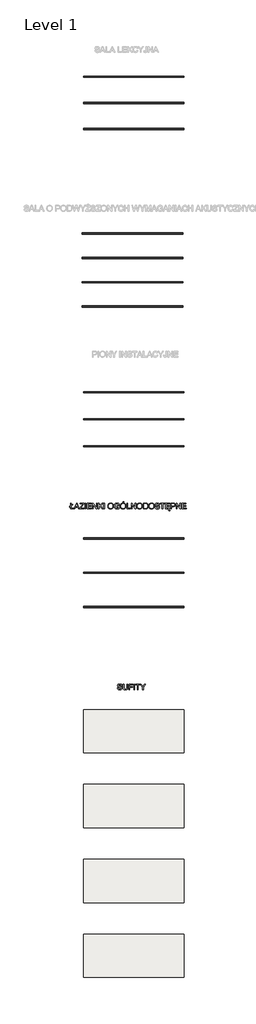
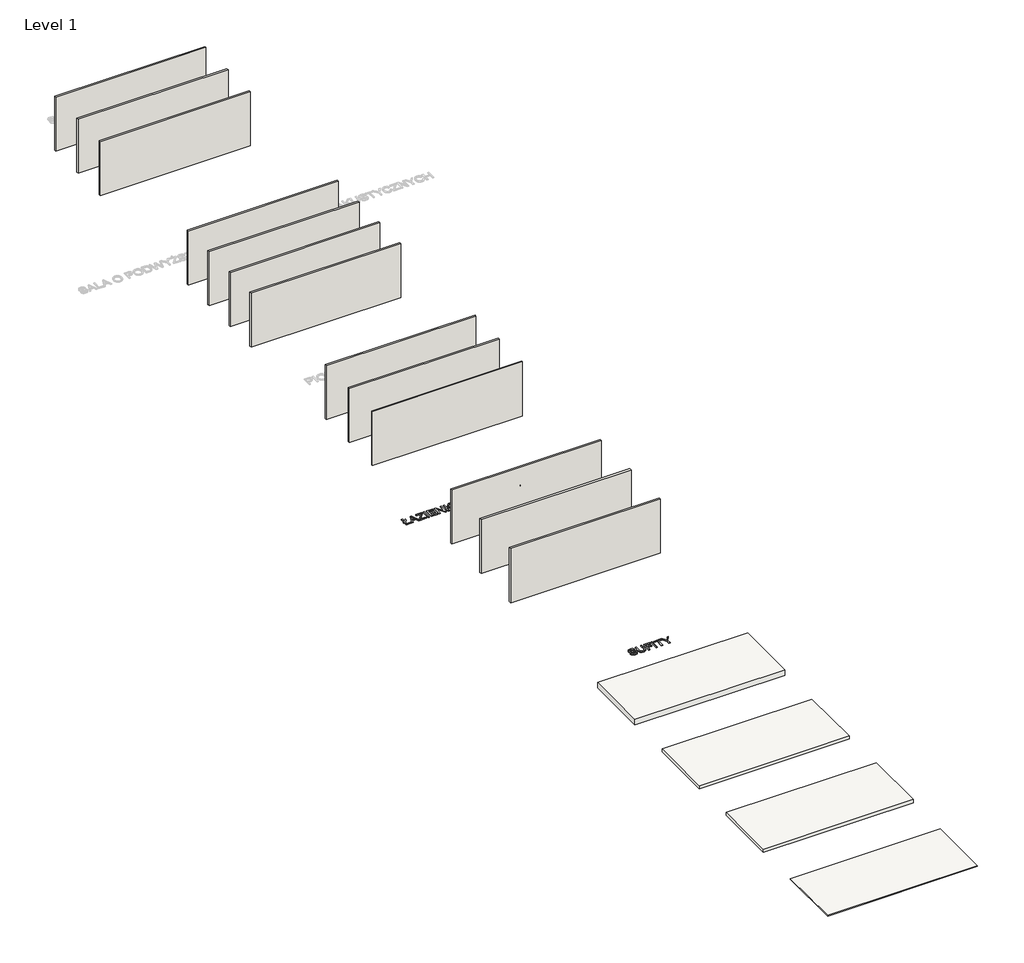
# One storey, part 1 of 4: 13 walls, 4 coverings, 2 proxies.
"""IFC4 building model written with IfcOpenShell, lengths in millimetres."""

from ifc_helpers import new_model, si_unit, frame, origin, origin_with_axes, place, context, project, spatial, polyline, outline, extrude, element, save

model = new_model("IFC4")

# Units and contexts
model_context = context("Model", 3, world=origin())
ifc_project = project(units=[si_unit("LENGTHUNIT", "METRE", prefix="MILLI")], contexts=[model_context])

# Site, building, storey
site = spatial("IfcSite", under=ifc_project)
building = spatial("IfcBuilding", under=site)
storey = spatial("IfcBuildingStorey", under=building, Name="Level 1", Elevation=0.0)

# Proxies
placement = place(None, origin())
element("IfcBuildingElementProxy", 1, Name="600mm Arial", ObjectType="600mm Arial", at=placement, inside=storey, context=model_context, shape_type="SweptSolid", body=[
    extrude(outline(polyline([(-4274.9817522, -32312.9350423), (-4340.9062058, -32367.823036), (-4340.9062058, -32292.4808033), (-4274.9817522, -32237.5928097), (-4274.9817522, -31948.7318671), (-4199.6395196, -31948.7318671), (-4199.6395196, -32174.7585649), (-4058.3728335, -32057.0363264), (-4058.3728335, -32132.378559), (-4199.6395196, -32250.1007975), (-4199.6395196, -32476.1274953), (-3898.2705892, -32476.1274953), (-3898.2705892, -32551.469728), (-4274.9817522, -32551.469728), (-4274.9817522, -32312.9350423)])), origin_with_axes(), (0.0, 0.0, 1.0), 50.0),
    extrude(outline(polyline([(-3893.1202413, -32551.469728), (-3652.5254164, -31948.7318671), (-3588.3667964, -31948.7318671), (-3347.7719716, -32551.469728), (-3427.3816354, -32551.469728), (-3496.3962977, -32363.1141464), (-3744.643068, -32363.1141464), (-3813.5105775, -32551.469728), (-3893.1202413, -32551.469728)]), holes=[polyline([(-3716.978342, -32287.7719138), (-3523.9138709, -32287.7719138), (-3578.2132534, -32139.5890462), (-3620.4461064, -32024.0740997), (-3657.9700699, -32126.6395999), (-3716.978342, -32287.7719138)])]), origin_with_axes(), (0.0, 0.0, 1.0), 50.0),
    extrude(outline(polyline([(-3314.3682864, -32551.469728), (-3314.3682864, -32473.3315922), (-3006.0831745, -32095.8846651), (-2947.5163608, -32024.0740997), (-3276.6971701, -32024.0740997), (-3276.6971701, -31948.7318671), (-2852.8971117, -31948.7318671), (-2852.8971117, -32024.0740997), (-3190.3184777, -32437.1320039), (-3222.103482, -32476.1274953), (-2843.4793326, -32476.1274953), (-2843.4793326, -32551.469728), (-3314.3682864, -32551.469728)])), origin_with_axes(), (0.0, 0.0, 1.0), 50.0),
    extrude(outline(polyline([(-2749.3015418, -32551.469728), (-2749.3015418, -31948.7318671), (-2673.9593092, -31948.7318671), (-2673.9593092, -32551.469728), (-2749.3015418, -32551.469728)])), origin_with_axes(), (0.0, 0.0, 1.0), 50.0),
    extrude(outline(polyline([(-2523.274844, -32551.469728), (-2523.274844, -31948.7318671), (-2090.0570065, -31948.7318671), (-2090.0570065, -32024.0740997), (-2447.9326114, -32024.0740997), (-2447.9326114, -32203.0119021), (-2108.8925646, -32203.0119021), (-2108.8925646, -32278.3541347), (-2447.9326114, -32278.3541347), (-2447.9326114, -32476.1274953), (-2080.6392274, -32476.1274953), (-2080.6392274, -32551.469728), (-2523.274844, -32551.469728)])), origin_with_axes(), (0.0, 0.0, 1.0), 50.0),
    extrude(outline(polyline([(-1967.6258785, -32551.469728), (-1967.6258785, -31948.7318671), (-1886.9861452, -31948.7318671), (-1572.0791573, -32426.2426968), (-1572.0791573, -31948.7318671), (-1496.7369247, -31948.7318671), (-1496.7369247, -32551.469728), (-1577.376658, -32551.469728), (-1892.2836459, -32073.8117454), (-1892.2836459, -32551.469728), (-1967.6258785, -32551.469728)])), origin_with_axes(), (0.0, 0.0, 1.0), 50.0),
    extrude(outline(polyline([(-1364.8880176, -32551.469728), (-1364.8880176, -31948.7318671), (-1289.545785, -31948.7318671), (-1289.545785, -32243.7732272), (-980.524909, -31948.7318671), (-875.1635056, -31948.7318671), (-1134.5938886, -32196.537179), (-865.7457265, -32551.469728), (-957.8633781, -32551.469728), (-1188.0103543, -32247.4520471), (-1289.545785, -32344.2785883), (-1289.545785, -32551.469728), (-1364.8880176, -32551.469728)])), origin_with_axes(), (0.0, 0.0, 1.0), 50.0),
    extrude(outline(polyline([(-799.821273, -32551.469728), (-799.821273, -31948.7318671), (-724.4790404, -31948.7318671), (-724.4790404, -32551.469728), (-799.821273, -32551.469728)])), origin_with_axes(), (0.0, 0.0, 1.0), 50.0),
    extrude(outline(polyline([(-366.6034355, -32258.0470486), (-361.5818463, -32187.3493262), (-346.5170785, -32124.7634017), (-321.4091324, -32070.2892753), (-305.0889674, -32046.0941363), (-286.2580077, -32023.9269469), (-243.1698291, -31986.9088211), (-194.2507207, -31960.4673027), (-139.5006828, -31944.6023917), (-78.9197153, -31939.314088), (-38.3699223, -31941.7972914), (0.1381255, -31949.2469018), (36.6044283, -31961.6629192), (71.028986, -31979.0453435), (102.4461084, -32000.8699428), (129.8901052, -32026.6124854), (153.3609765, -32056.2729713), (172.8587222, -32089.8514004), (188.1810073, -32126.5844176), (199.1254967, -32165.7086678), (205.6921903, -32207.224151), (207.8810882, -32251.1308671), (205.5772272, -32295.6169974), (198.6656442, -32337.6935006), (187.1463392, -32377.3603767), (171.0193123, -32414.6176257), (150.6662409, -32448.4811634), (126.4688026, -32477.9669053), (98.4269976, -32503.0748515), (66.5408256, -32523.8050019), (32.0656842, -32540.0285979), (-3.7430295, -32551.6168808), (-40.8853155, -32558.5698505), (-79.3611737, -32560.887507), (-120.6191394, -32558.3261286), (-159.633025, -32550.6419935), (-196.4028304, -32537.8351015), (-230.9285557, -32519.9054528), (-262.3088899, -32497.5474245), (-289.6425221, -32471.455394), (-312.9294524, -32441.6293612), (-332.1696807, -32408.0693262), (-347.2344484, -32372.1226568), (-357.9949968, -32335.1367207), (-364.4513258, -32297.111518), (-366.6034355, -32258.0470486)]), holes=[polyline([(-291.2612029, -32258.7828126), (-287.4950109, -32308.7319905), (-276.1964352, -32353.070968), (-257.3654755, -32391.799745), (-231.0021321, -32424.9183216), (-198.9550118, -32451.4426135), (-163.0727217, -32470.3885362), (-123.3552618, -32481.7560899), (-79.802632, -32485.5452744), (-35.5050413, -32481.7193017), (4.6814681, -32470.2413834), (40.7568963, -32451.1115197), (72.7212432, -32424.3297104), (98.8914486, -32390.512158), (117.5844525, -32350.2750648), (128.8002548, -32303.6184308), (132.5388556, -32250.5422559), (130.9385689, -32216.0625159), (126.1377089, -32183.8452502), (118.1362755, -32153.8904587), (106.9342687, -32126.1981415), (92.6558488, -32101.1315821), (75.4251758, -32079.0540638), (55.2422499, -32059.9655868), (32.1070709, -32043.866151), (6.7370088, -32031.0868502), (-20.1505665, -32021.9587782), (-48.5556551, -32016.481935), (-78.4782569, -32014.6563206), (-120.5179719, -32018.1741922), (-159.5226604, -32028.7278069), (-195.4923225, -32046.3171648), (-228.4269581, -32070.9422659), (-255.9169402, -32103.7895295), (-275.5526417, -32146.0453752), (-287.3340626, -32197.7098029), (-291.2612029, -32258.7828126)])]), origin_with_axes(), (0.0, 0.0, 1.0), 50.0),
    extrude(outline(polyline([(594.0100303, -32316.025251), (594.0100303, -32240.6830184), (838.8722863, -32240.6830184), (838.8722863, -32465.9739523), (779.3673736, -32507.3606767), (717.9862627, -32537.0487537), (654.8761064, -32554.9278187), (590.1840576, -32560.887507), (546.9073394, -32558.5192667), (505.6631692, -32551.4145457), (466.451547, -32539.5733439), (429.2724729, -32522.9956615), (395.3261618, -32501.9298188), (365.8128287, -32476.624136), (340.7324737, -32447.0786133), (320.0850967, -32413.2932506), (303.9580697, -32376.3487012), (292.4387648, -32337.3256186), (285.5271818, -32296.2240026), (283.2233208, -32253.0438535), (285.5179847, -32209.8591058), (292.4019766, -32168.1550831), (303.8752963, -32127.9317854), (319.9379439, -32089.1892128), (340.3048109, -32053.6288195), (364.6907886, -32022.9520596), (393.0958772, -31997.1589332), (425.5200765, -31976.2494403), (461.2598124, -31960.0902237), (499.6115104, -31948.5479261), (540.5751705, -31941.6225475), (584.1507928, -31939.314088), (646.2124854, -31944.666771), (702.0201841, -31960.7248201), (726.9395908, -31972.4786498), (749.017109, -31986.329407), (768.2527388, -32002.2770915), (784.6464802, -32020.3217033), (811.0052252, -32064.338784), (830.1902712, -32120.017724), (760.7341505, -32139.5890462), (745.2279244, -32099.8761848), (726.3739722, -32069.9121963), (701.4315729, -32047.3242418), (667.6600058, -32029.7394824), (627.3953214, -32018.427111), (582.9735705, -32014.6563206), (530.9734504, -32018.7214166), (486.5149113, -32030.9167048), (449.7635, -32049.7154747), (420.8847634, -32073.5910162), (398.7198732, -32101.3109246), (382.1100011, -32131.6427951), (364.4516653, -32188.5173515), (358.5655534, -32249.9536447), (360.3359855, -32287.5741772), (365.6472818, -32322.0033335), (374.4994423, -32353.2411134), (386.892467, -32381.287517), (402.6654076, -32406.0367782), (421.6573156, -32427.383131), (443.868191, -32445.3265753), (469.298034, -32459.8671112), (496.7558264, -32471.1013076), (525.0505503, -32479.1257336), (554.1822058, -32483.9403892), (584.1507928, -32485.5452744), (636.3348539, -32480.7076262), (687.2313279, -32466.1946815), (731.4323496, -32446.200295), (763.5300537, -32424.9183216), (763.5300537, -32316.025251), (594.0100303, -32316.025251)])), origin_with_axes(), (0.0, 0.0, 1.0), 50.0),
    extrude(outline(polyline([(933.0500771, -32258.0470486), (938.0716663, -32187.3493262), (953.136434, -32124.7634017), (978.2443802, -32070.2892753), (994.5645452, -32046.0941363), (1013.3955048, -32023.9269469), (1056.4836835, -31986.9088211), (1105.4027918, -31960.4673027), (1160.1528297, -31944.6023917), (1220.7337973, -31939.314088), (1261.2835902, -31941.7972914), (1299.7916381, -31949.2469018), (1336.2579408, -31961.6629192), (1370.6824985, -31979.0453435), (1402.0996209, -32000.8699428), (1429.5436178, -32026.6124854), (1453.0144891, -32056.2729713), (1472.5122348, -32089.8514004), (1487.8345199, -32126.5844176), (1498.7790093, -32165.7086678), (1505.3457029, -32207.224151), (1507.5346007, -32251.1308671), (1505.2307397, -32295.6169974), (1498.3191568, -32337.6935006), (1486.7998518, -32377.3603767), (1470.6728248, -32414.6176257), (1450.3197534, -32448.4811634), (1426.1223152, -32477.9669053), (1398.0805101, -32503.0748515), (1366.1943382, -32523.8050019), (1331.7191967, -32540.0285979), (1295.910483, -32551.6168808), (1258.7681971, -32558.5698505), (1220.2923389, -32560.887507), (1179.0343731, -32558.3261286), (1140.0204876, -32550.6419935), (1103.2506821, -32537.8351015), (1068.7249569, -32519.9054528), (1037.3446227, -32497.5474245), (1010.0109905, -32471.455394), (986.7240602, -32441.6293612), (967.4838318, -32408.0693262), (952.4190641, -32372.1226568), (941.6585158, -32335.1367207), (935.2021867, -32297.111518), (933.0500771, -32258.0470486)]), holes=[polyline([(1008.3923097, -32258.7828126), (1012.1585016, -32308.7319905), (1023.4570774, -32353.070968), (1042.288037, -32391.799745), (1068.6513805, -32424.9183216), (1100.6985008, -32451.4426135), (1136.5807909, -32470.3885362), (1176.2982508, -32481.7560899), (1219.8508805, -32485.5452744), (1264.1484713, -32481.7193017), (1304.3349807, -32470.2413834), (1340.4104089, -32451.1115197), (1372.3747557, -32424.3297104), (1398.5449611, -32390.512158), (1417.237965, -32350.2750648), (1428.4537674, -32303.6184308), (1432.1923681, -32250.5422559), (1430.5920815, -32216.0625159), (1425.7912214, -32183.8452502), (1417.789788, -32153.8904587), (1406.5877813, -32126.1981415), (1392.3093613, -32101.1315821), (1375.0786884, -32079.0540638), (1354.8957624, -32059.9655868), (1331.7605834, -32043.866151), (1306.3905214, -32031.0868502), (1279.502946, -32021.9587782), (1251.0978575, -32016.481935), (1221.1752557, -32014.6563206), (1179.1355407, -32018.1741922), (1140.1308522, -32028.7278069), (1104.1611901, -32046.3171648), (1071.2265545, -32070.9422659), (1043.7365724, -32103.7895295), (1024.1008709, -32146.0453752), (1012.31945, -32197.7098029), (1008.3923097, -32258.7828126)])]), origin_with_axes(), (0.0, 0.0, 1.0), 50.0),
    extrude(outline(polyline([(1168.494554, -31911.0607507), (1225.0012284, -31798.0474018), (1319.1790192, -31798.0474018), (1225.0012284, -31911.0607507), (1168.494554, -31911.0607507)])), origin_with_axes(), (0.0, 0.0, 1.0), 50.0),
    extrude(outline(polyline([(1611.1301706, -32551.469728), (1611.1301706, -31948.7318671), (1686.4724032, -31948.7318671), (1686.4724032, -32476.1274953), (1987.8413336, -32476.1274953), (1987.8413336, -32551.469728), (1611.1301706, -32551.469728)])), origin_with_axes(), (0.0, 0.0, 1.0), 50.0),
    extrude(outline(polyline([(2072.6013453, -32551.469728), (2072.6013453, -31948.7318671), (2153.2410787, -31948.7318671), (2468.1480665, -32426.2426968), (2468.1480665, -31948.7318671), (2543.4902992, -31948.7318671), (2543.4902992, -32551.469728), (2462.8505658, -32551.469728), (2147.9435779, -32073.8117454), (2147.9435779, -32551.469728), (2072.6013453, -32551.469728)])), origin_with_axes(), (0.0, 0.0, 1.0), 50.0),
    extrude(outline(polyline([(2647.085869, -32258.0470486), (2652.1074582, -32187.3493262), (2667.1722259, -32124.7634017), (2692.2801721, -32070.2892753), (2708.6003371, -32046.0941363), (2727.4312967, -32023.9269469), (2770.5194754, -31986.9088211), (2819.4385837, -31960.4673027), (2874.1886217, -31944.6023917), (2934.7695892, -31939.314088), (2975.3193821, -31941.7972914), (3013.82743, -31949.2469018), (3050.2937328, -31961.6629192), (3084.7182905, -31979.0453435), (3116.1354129, -32000.8699428), (3143.5794097, -32026.6124854), (3167.050281, -32056.2729713), (3186.5480267, -32089.8514004), (3201.8703118, -32126.5844176), (3212.8148012, -32165.7086678), (3219.3814948, -32207.224151), (3221.5703927, -32251.1308671), (3219.2665317, -32295.6169974), (3212.3549487, -32337.6935006), (3200.8356437, -32377.3603767), (3184.7086168, -32414.6176257), (3164.3555454, -32448.4811634), (3140.1581071, -32477.9669053), (3112.1163021, -32503.0748515), (3080.2301301, -32523.8050019), (3045.7549886, -32540.0285979), (3009.9462749, -32551.6168808), (2972.803989, -32558.5698505), (2934.3281308, -32560.887507), (2893.0701651, -32558.3261286), (2854.0562795, -32550.6419935), (2817.2864741, -32537.8351015), (2782.7607488, -32519.9054528), (2751.3804146, -32497.5474245), (2724.0467824, -32471.455394), (2700.7598521, -32441.6293612), (2681.5196238, -32408.0693262), (2666.454856, -32372.1226568), (2655.6943077, -32335.1367207), (2649.2379787, -32297.111518), (2647.085869, -32258.0470486)]), holes=[polyline([(2722.4281016, -32258.7828126), (2726.1942935, -32308.7319905), (2737.4928693, -32353.070968), (2756.3238289, -32391.799745), (2782.6871724, -32424.9183216), (2814.7342927, -32451.4426135), (2850.6165828, -32470.3885362), (2890.3340427, -32481.7560899), (2933.8866724, -32485.5452744), (2978.1842632, -32481.7193017), (3018.3707726, -32470.2413834), (3054.4462008, -32451.1115197), (3086.4105476, -32424.3297104), (3112.5807531, -32390.512158), (3131.273757, -32350.2750648), (3142.4895593, -32303.6184308), (3146.2281601, -32250.5422559), (3144.6278734, -32216.0625159), (3139.8270133, -32183.8452502), (3131.8255799, -32153.8904587), (3120.6235732, -32126.1981415), (3106.3451533, -32101.1315821), (3089.1144803, -32079.0540638), (3068.9315543, -32059.9655868), (3045.7963754, -32043.866151), (3020.4263133, -32031.0868502), (2993.538738, -32021.9587782), (2965.1336494, -32016.481935), (2935.2110476, -32014.6563206), (2893.1713326, -32018.1741922), (2854.1666441, -32028.7278069), (2818.196982, -32046.3171648), (2785.2623464, -32070.9422659), (2757.7723643, -32103.7895295), (2738.1366628, -32146.0453752), (2726.3552419, -32197.7098029), (2722.4281016, -32258.7828126)])]), origin_with_axes(), (0.0, 0.0, 1.0), 50.0),
    extrude(outline(polyline([(3325.1659625, -32551.469728), (3325.1659625, -31948.7318671), (3533.0928662, -31948.7318671), (3595.2281352, -31950.9023708), (3640.6615616, -31957.4138821), (3688.7069501, -31974.1525129), (3729.247546, -32000.529652), (3751.5871802, -32022.0875369), (3770.9285761, -32046.441325), (3787.2717337, -32073.5910162), (3800.6166531, -32103.5366106), (3810.9817283, -32136.0021967), (3818.3853534, -32170.7118629), (3824.3082536, -32246.8634359), (3820.2983398, -32311.5554848), (3808.2685986, -32368.4852236), (3789.9480752, -32416.9536764), (3767.0658151, -32456.2618676), (3740.7254643, -32487.2927139), (3712.0306686, -32510.9291321), (3679.086836, -32528.4587092), (3639.999374, -32541.1690321), (3594.6947063, -32548.894554), (3543.0992565, -32551.469728), (3325.1659625, -32551.469728)]), holes=[polyline([(3400.5081951, -32476.1274953), (3533.8286302, -32476.1274953), (3588.9741413, -32473.4051686), (3630.8023241, -32465.2381883), (3662.3665993, -32452.1048011), (3686.7203874, -32434.4832535), (3712.8951913, -32401.8705146), (3732.558484, -32359.6560557), (3744.8641367, -32307.6559356), (3748.966021, -32245.6862136), (3746.9564656, -32201.9450443), (3740.9277994, -32163.5749522), (3730.8800224, -32130.5759373), (3716.8131346, -32102.9479994), (3699.8675702, -32080.0657393), (3681.1837633, -32061.3037576), (3660.7617141, -32046.6620542), (3638.6014224, -32036.1406291), (3595.2649234, -32027.090732), (3531.768491, -32024.0740997), (3400.5081951, -32024.0740997), (3400.5081951, -32476.1274953)])]), origin_with_axes(), (0.0, 0.0, 1.0), 50.0),
    extrude(outline(polyline([(3899.6504862, -32258.0470486), (3904.6720754, -32187.3493262), (3919.7368431, -32124.7634017), (3944.8447893, -32070.2892753), (3961.1649543, -32046.0941363), (3979.9959139, -32023.9269469), (4023.0840926, -31986.9088211), (4072.0032009, -31960.4673027), (4126.7532389, -31944.6023917), (4187.3342064, -31939.314088), (4227.8839993, -31941.7972914), (4266.3920472, -31949.2469018), (4302.8583499, -31961.6629192), (4337.2829076, -31979.0453435), (4368.70003, -32000.8699428), (4396.1440269, -32026.6124854), (4419.6148982, -32056.2729713), (4439.1126439, -32089.8514004), (4454.434929, -32126.5844176), (4465.3794184, -32165.7086678), (4471.946112, -32207.224151), (4474.1350098, -32251.1308671), (4471.8311489, -32295.6169974), (4464.9195659, -32337.6935006), (4453.4002609, -32377.3603767), (4437.2732339, -32414.6176257), (4416.9201625, -32448.4811634), (4392.7227243, -32477.9669053), (4364.6809192, -32503.0748515), (4332.7947473, -32523.8050019), (4298.3196058, -32540.0285979), (4262.5108921, -32551.6168808), (4225.3686062, -32558.5698505), (4186.892748, -32560.887507), (4145.6347823, -32558.3261286), (4106.6208967, -32550.6419935), (4069.8510912, -32537.8351015), (4035.325366, -32519.9054528), (4003.9450318, -32497.5474245), (3976.6113996, -32471.455394), (3953.3244693, -32441.6293612), (3934.0842409, -32408.0693262), (3919.0194732, -32372.1226568), (3908.2589249, -32335.1367207), (3901.8025959, -32297.111518), (3899.6504862, -32258.0470486)]), holes=[polyline([(3974.9927188, -32258.7828126), (3978.7589107, -32308.7319905), (3990.0574865, -32353.070968), (4008.8884461, -32391.799745), (4035.2517896, -32424.9183216), (4067.2989099, -32451.4426135), (4103.1812, -32470.3885362), (4142.8986599, -32481.7560899), (4186.4512896, -32485.5452744), (4230.7488804, -32481.7193017), (4270.9353898, -32470.2413834), (4307.010818, -32451.1115197), (4338.9751648, -32424.3297104), (4365.1453703, -32390.512158), (4383.8383741, -32350.2750648), (4395.0541765, -32303.6184308), (4398.7927772, -32250.5422559), (4397.1924906, -32216.0625159), (4392.3916305, -32183.8452502), (4384.3901971, -32153.8904587), (4373.1881904, -32126.1981415), (4358.9097704, -32101.1315821), (4341.6790975, -32079.0540638), (4321.4961715, -32059.9655868), (4298.3609926, -32043.866151), (4272.9909305, -32031.0868502), (4246.1033551, -32021.9587782), (4217.6982666, -32016.481935), (4187.7756648, -32014.6563206), (4145.7359498, -32018.1741922), (4106.7312613, -32028.7278069), (4070.7615992, -32046.3171648), (4037.8269636, -32070.9422659), (4010.3369815, -32103.7895295), (3990.70128, -32146.0453752), (3978.9198591, -32197.7098029), (3974.9927188, -32258.7828126)])]), origin_with_axes(), (0.0, 0.0, 1.0), 50.0),
    extrude(outline(polyline([(4549.4772425, -32344.2785883), (4624.8194751, -32344.2785883), (4633.464702, -32386.088377), (4649.0996868, -32419.6943973), (4673.490263, -32446.3658419), (4708.4022644, -32467.3719039), (4751.0765758, -32481.0019318), (4798.7540824, -32485.5452744), (4840.729418, -32482.1055778), (4877.4808294, -32471.7864878), (4907.2608769, -32455.4525272), (4928.3221211, -32433.9682187), (4940.848503, -32409.3017309), (4945.0239637, -32383.4212326), (4941.8969667, -32358.2029218), (4932.5159758, -32336.4059136), (4913.4596885, -32317.8094787), (4881.3068021, -32302.192888), (4771.6043911, -32273.424516), (4699.5914906, -32254.3866227), (4653.5142707, -32236.2684345), (4616.0087013, -32210.921365), (4589.4292271, -32180.2032184), (4573.5919072, -32144.7761823), (4568.3128006, -32105.3024442), (4569.945277, -32082.866241), (4574.842706, -32061.1749989), (4583.0050878, -32040.2287178), (4594.4324223, -32020.0273977), (4608.9959508, -32001.3941747), (4626.5669145, -31985.1521846), (4647.1453137, -31971.3014275), (4670.7311481, -31959.8419033), (4723.7429436, -31944.4460418), (4782.4201218, -31939.314088), (4845.9901306, -31944.6851651), (4901.6138882, -31960.7983965), (4925.9492822, -31972.8005466), (4947.304832, -31987.3226883), (4965.6805377, -32004.3648218), (4981.0763992, -32023.9269469), (4993.3728549, -32045.4388465), (5002.4503431, -32068.3303037), (5008.3088639, -32092.6013183), (5010.9484172, -32118.2518904), (4935.6061846, -32118.2518904), (4930.5662013, -32094.210802), (4921.7738216, -32073.2967106), (4909.2290455, -32055.5096162), (4892.9318732, -32040.8495186), (4872.5788018, -32029.3899945), (4847.8663287, -32021.2046201), (4818.7944541, -32016.2933955), (4785.3631778, -32014.6563206), (4750.8650437, -32016.2750014), (4721.3884988, -32021.1310437), (4696.9335432, -32029.2244476), (4677.5001768, -32040.5552131), (4662.6929265, -32054.1760439), (4652.1163191, -32069.1396441), (4645.7703547, -32085.4460135), (4643.6550332, -32103.0951522), (4645.1541524, -32118.2794816), (4649.6515097, -32132.0474653), (4657.1471054, -32144.3991032), (4667.6409393, -32155.3343955), (4684.1588409, -32165.6902737), (4710.168098, -32176.1565165), (4790.6606785, -32197.4200958), (4873.728433, -32217.6168173), (4923.9811135, -32235.2383649), (4966.9313365, -32262.5719971), (4983.53661, -32278.6392433), (4996.895325, -32296.3067761), (5007.1638312, -32315.4826251), (5014.4984785, -32336.0748198), (5020.3661963, -32381.5082462), (5018.6785376, -32405.0756865), (5013.6155617, -32427.9533481), (5005.1772684, -32450.1412309), (4993.3636578, -32471.639335), (4978.3816636, -32491.6153273), (4960.4382193, -32509.2368749), (4939.5333249, -32524.5039777), (4915.6669805, -32537.4166357), (4889.5335632, -32547.6851419), (4861.8274505, -32555.0197892), (4801.6971384, -32560.887507), (4763.1569008, -32559.3056144), (4727.881616, -32554.5599367), (4695.8712839, -32546.6504738), (4667.1259045, -32535.5772258), (4641.4707339, -32521.3217984), (4618.7310281, -32503.8657978), (4598.906787, -32483.2092237), (4581.9980108, -32459.3520764), (4568.37718, -32433.0669078), (4558.4167749, -32405.1262703), (4552.1167958, -32375.5301638), (4549.4772425, -32344.2785883)])), origin_with_axes(), (0.0, 0.0, 1.0), 50.0),
    extrude(outline(polyline([(5284.0640104, -32551.469728), (5284.0640104, -32024.0740997), (5086.2906498, -32024.0740997), (5086.2906498, -31948.7318671), (5557.1796036, -31948.7318671), (5557.1796036, -32024.0740997), (5359.406243, -32024.0740997), (5359.406243, -32551.469728), (5284.0640104, -32551.469728)])), origin_with_axes(), (0.0, 0.0, 1.0), 50.0),
    extrude(outline(polyline([(5641.9396153, -31948.7318671), (6075.1574529, -31948.7318671), (6075.1574529, -32024.0740997), (5717.2818479, -32024.0740997), (5717.2818479, -32203.0119021), (6056.3218947, -32203.0119021), (6056.3218947, -32278.3541347), (5717.2818479, -32278.3541347), (5717.2818479, -32476.1274953), (6084.5752319, -32476.1274953), (6084.5752319, -32551.469728), (6058.3820339, -32551.469728), (6037.6150952, -32567.9324472), (6022.1088692, -32587.8900455), (6012.4519668, -32609.7238419), (6009.2329993, -32631.8151557), (6011.5322618, -32648.1123281), (6018.4300492, -32661.6871737), (6030.4781845, -32670.8474354), (6048.2284908, -32673.9008559), (6067.064049, -32671.2521056), (6084.5752319, -32664.1887713), (6084.5752319, -32716.133709), (6057.1680233, -32726.8390751), (6031.7473774, -32730.4075304), (6013.1509426, -32728.8992142), (5997.0928935, -32724.3742657), (5983.5180479, -32717.2005668), (5972.3712234, -32707.7459995), (5957.5823672, -32683.3922114), (5952.7263249, -32653.8880754), (5956.4051448, -32627.1982367), (5967.4416047, -32600.3980333), (5985.210305, -32574.7382641), (6009.0858465, -32551.469728), (5641.9396153, -32551.469728), (5641.9396153, -31948.7318671)])), origin_with_axes(), (0.0, 0.0, 1.0), 50.0),
    extrude(outline(polyline([(6197.5885809, -32551.469728), (6197.5885809, -31948.7318671), (6420.9665283, -31948.7318671), (6472.9850424, -31950.1666068), (6511.0240407, -31954.4708262), (6551.1783605, -31965.1945863), (6584.2325578, -31982.650587), (6610.8488201, -32007.6297745), (6631.6893352, -32040.923095), (6645.1538162, -32080.194498), (6649.6419765, -32123.1079328), (6646.6115486, -32160.1076644), (6637.5202648, -32194.145946), (6622.3681251, -32225.2227776), (6601.1551296, -32253.3381591), (6572.0326711, -32276.6434835), (6533.1521428, -32293.2901437), (6484.5135445, -32303.2781399), (6426.1168763, -32306.607472), (6272.9308135, -32306.607472), (6272.9308135, -32551.469728), (6197.5885809, -32551.469728)]), holes=[polyline([(6272.9308135, -32231.2652394), (6430.5314602, -32231.2652394), (6466.7678367, -32229.536194), (6497.3388305, -32224.3490578), (6522.2444416, -32215.703831), (6541.4846699, -32203.6005133), (6555.8412648, -32188.3610017), (6566.0959754, -32170.3071927), (6572.2488018, -32149.4390866), (6574.2997439, -32125.7566831), (6569.4620957, -32091.9115396), (6554.949151, -32063.3638968), (6532.5635316, -32041.8795882), (6504.1078592, -32029.2244476), (6475.0451816, -32025.3616867), (6428.7656266, -32024.0740997), (6272.9308135, -32024.0740997), (6272.9308135, -32231.2652394)])]), origin_with_axes(), (0.0, 0.0, 1.0), 50.0),
    extrude(outline(polyline([(6753.2375464, -32551.469728), (6753.2375464, -31948.7318671), (6833.8772797, -31948.7318671), (7148.7842676, -32426.2426968), (7148.7842676, -31948.7318671), (7224.1265002, -31948.7318671), (7224.1265002, -32551.469728), (7143.4867669, -32551.469728), (6828.579779, -32073.8117454), (6828.579779, -32551.469728), (6753.2375464, -32551.469728)])), origin_with_axes(), (0.0, 0.0, 1.0), 50.0),
    extrude(outline(polyline([(7355.9754073, -32551.469728), (7355.9754073, -31948.7318671), (7789.1932448, -31948.7318671), (7789.1932448, -32024.0740997), (7431.3176399, -32024.0740997), (7431.3176399, -32203.0119021), (7770.3576866, -32203.0119021), (7770.3576866, -32278.3541347), (7431.3176399, -32278.3541347), (7431.3176399, -32476.1274953), (7798.6110239, -32476.1274953), (7798.6110239, -32551.469728), (7355.9754073, -32551.469728)])), origin_with_axes(), (0.0, 0.0, 1.0), 50.0),
])
element("IfcBuildingElementProxy", 2, Name="600mm Arial", ObjectType="600mm Arial", at=placement, inside=storey, context=model_context, shape_type="SweptSolid", body=[
    extrude(outline(polyline([(635.9623504, -51169.5146622), (711.304583, -51169.5146622), (719.9498099, -51211.324451), (735.5847946, -51244.9304712), (759.9753709, -51271.6019159), (794.8873723, -51292.6079778), (837.5616837, -51306.2380057), (885.2391903, -51310.7813484), (927.2145259, -51307.3416517), (963.9659373, -51297.0225617), (993.7459848, -51280.6886012), (1014.807229, -51259.2042926), (1027.3336109, -51234.5378049), (1031.5090716, -51208.6573065), (1028.3820746, -51183.4389957), (1019.0010837, -51161.6419875), (999.9447964, -51143.0455527), (967.79191, -51127.428962), (858.089499, -51098.6605899), (786.0765985, -51079.6226967), (739.9993786, -51061.5045084), (702.4938092, -51036.157439), (675.914335, -51005.4392924), (660.0770151, -50970.0122562), (654.7979085, -50930.5385182), (656.4303849, -50908.102315), (661.3278139, -50886.4110728), (669.4901957, -50865.4647917), (680.9175302, -50845.2634717), (695.4810587, -50826.6302486), (713.0520224, -50810.3882585), (733.6304216, -50796.5375014), (757.216256, -50785.0779773), (810.2280515, -50769.6821158), (868.9052297, -50764.5501619), (932.4752385, -50769.9212391), (988.0989961, -50786.0344704), (1012.4343901, -50798.0366205), (1033.7899399, -50812.5587623), (1052.1656456, -50829.6008957), (1067.5615071, -50849.1630208), (1079.8579628, -50870.6749205), (1088.935451, -50893.5663776), (1094.7939718, -50917.8373923), (1097.4335251, -50943.4879644), (1022.0912925, -50943.4879644), (1017.0513092, -50919.446876), (1008.2589295, -50898.5327846), (995.7141534, -50880.7456901), (979.4169811, -50866.0855926), (959.0639097, -50854.6260684), (934.3514366, -50846.4406941), (905.279562, -50841.5294694), (871.8482857, -50839.8923945), (837.3501516, -50841.5110753), (807.8736067, -50846.3671177), (783.4186511, -50854.4605216), (763.9852847, -50865.791287), (749.1780344, -50879.4121179), (738.601427, -50894.375718), (732.2554626, -50910.6820875), (730.1401411, -50928.3312262), (731.6392603, -50943.5155555), (736.1366176, -50957.2835392), (743.6322133, -50969.6351772), (754.1260472, -50980.5704695), (770.6439488, -50990.9263477), (796.6532058, -51001.3925904), (877.1457864, -51022.6561697), (960.2135409, -51042.8528913), (1010.4662214, -51060.4744388), (1053.4164444, -51087.8080711), (1070.0217179, -51103.8753172), (1083.3804329, -51121.54285), (1093.6489391, -51140.718699), (1100.9835864, -51161.3108937), (1106.8513042, -51206.7443201), (1105.1636455, -51230.3117604), (1100.1006696, -51253.189422), (1091.6623763, -51275.3773049), (1079.8487657, -51296.875409), (1064.8667715, -51316.8514013), (1046.9233272, -51334.4729489), (1026.0184328, -51349.7400517), (1002.1520884, -51362.6527097), (976.0186711, -51372.9212159), (948.3125584, -51380.2558632), (888.1822462, -51386.123581), (849.6420087, -51384.5416884), (814.3667239, -51379.7960107), (782.3563918, -51371.8865478), (753.6110124, -51360.8132997), (727.9558418, -51346.5578724), (705.2161359, -51329.1018717), (685.3918949, -51308.4452977), (668.4831187, -51284.5881503), (654.8622879, -51258.3029818), (644.9018828, -51230.3623442), (638.6019037, -51200.7662377), (635.9623504, -51169.5146622)])), origin_with_axes(), (0.0, 0.0, 1.0), 50.0),
    extrude(outline(polyline([(1615.4113743, -50773.967941), (1690.7536069, -50773.967941), (1690.7536069, -51121.6900028), (1685.6400472, -51203.1206825), (1679.2480975, -51236.8140747), (1670.299368, -51265.8261686), (1658.0213064, -51291.2560115), (1641.6413606, -51314.2026509), (1621.1595305, -51334.6660869), (1596.5758162, -51352.6463194), (1567.8626264, -51367.2926214), (1534.9923702, -51377.7542656), (1497.9650474, -51384.0312521), (1456.780658, -51386.123581), (1416.6125426, -51384.3025651), (1380.2795971, -51378.8395175), (1347.7818213, -51369.7344381), (1319.1192154, -51356.987327), (1294.2871807, -51340.7867236), (1273.2811188, -51321.3211675), (1256.1010296, -51298.5906588), (1242.7469132, -51272.5951973), (1232.7359244, -51242.4426692), (1225.5852181, -51207.2409608), (1221.2947944, -51166.990072), (1219.8646531, -51121.6900028), (1219.8646531, -50773.967941), (1295.2068857, -50773.967941), (1295.2068857, -51119.0412525), (1298.9224939, -51186.7499337), (1310.0693183, -51233.8940114), (1318.8341069, -51251.2718371), (1330.2660399, -51266.5435384), (1344.3651173, -51279.7091154), (1361.1313392, -51290.7685678), (1401.3776295, -51305.7781532), (1449.7173237, -51310.7813484), (1491.2420039, -51308.307342), (1526.3471433, -51300.8853227), (1555.0327419, -51288.5152906), (1577.2987996, -51271.1972457), (1593.973051, -51246.8434576), (1605.8832306, -51213.366196), (1613.0293384, -51170.765461), (1615.4113743, -51119.0412525), (1615.4113743, -50773.967941)])), origin_with_axes(), (0.0, 0.0, 1.0), 50.0),
    extrude(outline(polyline([(1822.602514, -51376.7058019), (1822.602514, -50773.967941), (2227.5670143, -50773.967941), (2227.5670143, -50849.3101736), (1897.9447466, -50849.3101736), (1897.9447466, -51028.2479761), (2180.4781189, -51028.2479761), (2180.4781189, -51103.5902087), (1897.9447466, -51103.5902087), (1897.9447466, -51376.7058019), (1822.602514, -51376.7058019)])), origin_with_axes(), (0.0, 0.0, 1.0), 50.0),
    extrude(outline(polyline([(2340.5803632, -51376.7058019), (2340.5803632, -50773.967941), (2415.9225958, -50773.967941), (2415.9225958, -51376.7058019), (2340.5803632, -51376.7058019)])), origin_with_axes(), (0.0, 0.0, 1.0), 50.0),
    extrude(outline(polyline([(2717.2915263, -51376.7058019), (2717.2915263, -50849.3101736), (2519.5181657, -50849.3101736), (2519.5181657, -50773.967941), (2990.4071195, -50773.967941), (2990.4071195, -50849.3101736), (2792.6337589, -50849.3101736), (2792.6337589, -51376.7058019), (2717.2915263, -51376.7058019)])), origin_with_axes(), (0.0, 0.0, 1.0), 50.0),
    extrude(outline(polyline([(3244.6871546, -51376.7058019), (3244.6871546, -51121.3956973), (3009.2426776, -50773.967941), (3098.1229677, -50773.967941), (3223.7914572, -50959.5276194), (3288.09723, -51054.1468685), (3352.5501555, -50952.7585907), (3466.593574, -50773.967941), (3555.4738641, -50773.967941), (3320.0293872, -51121.3956973), (3320.0293872, -51376.7058019), (3244.6871546, -51376.7058019)])), origin_with_axes(), (0.0, 0.0, 1.0), 50.0),
])

# Coverings
element("IfcCovering", 3, ObjectType="Nida Sufit DK/WO/CD60-12,5/SonicC12n0", at=placement, inside=storey, context=model_context, shape_type="SweptSolid", body=[
    extrude(outline(polyline([(7576.3229419, -53424.652939), (7576.3229419, -57924.652939), (-2923.6770581, -57924.652939), (-2923.6770581, -53424.652939), (7576.3229419, -53424.652939)])), frame((0.0, 0.0, 100.0), z_axis=(0.0, 0.0, 1.0), x_axis=(1.0, 0.0, 0.0)), (0.0, 0.0, 1.0), 400.0),
])
element("IfcCovering", 4, ObjectType="Nida Sufit DK/WO/CD60-12,5/Expert", at=placement, inside=storey, context=model_context, shape_type="SweptSolid", body=[
    extrude(outline(polyline([(7576.3229419, -61212.6557571), (7576.3229419, -65712.6557571), (-2923.6770581, -65712.6557571), (-2923.6770581, -61212.6557571), (7576.3229419, -61212.6557571)])), frame((0.0, 0.0, 100.0), z_axis=(0.0, 0.0, 1.0), x_axis=(1.0, 0.0, 0.0)), (0.0, 0.0, 1.0), 222.5),
])
element("IfcCovering", 5, ObjectType="Nida Sufit DK/WO/CD60-25/Expert", at=placement, inside=storey, context=model_context, shape_type="SweptSolid", body=[
    extrude(outline(polyline([(7576.3229419, -69000.6585751), (7576.3229419, -73500.6585751), (-2923.6770581, -73500.6585751), (-2923.6770581, -69000.6585751), (7576.3229419, -69000.6585751)])), frame((0.0, 0.0, 100.0), z_axis=(0.0, 0.0, 1.0), x_axis=(1.0, 0.0, 0.0)), (0.0, 0.0, 1.0), 235.0),
])
element("IfcCovering", 6, ObjectType="NIDA Sufit C50/U50/500-25/Expert", at=placement, inside=storey, context=model_context, shape_type="SweptSolid", body=[
    extrude(outline(polyline([(7576.3229419, -76788.6613932), (7576.3229419, -81288.6613932), (-2923.6770581, -81288.6613932), (-2923.6770581, -76788.6613932), (7576.3229419, -76788.6613932)])), frame((0.0, 0.0, 100.0), z_axis=(0.0, 0.0, 1.0), x_axis=(1.0, 0.0, 0.0)), (0.0, 0.0, 1.0), 50.0),
])

# Walls
element("IfcWall", 7, ObjectType="Nida Ściana 125A75/Expert+Cicha", at=placement, inside=storey, context=model_context, shape_type="SweptSolid", body=[
    extrude(outline(polyline([(7458.3795734, -3953.5030328), (-3041.6204266, -3953.5030328), (-3041.6204266, -3828.5030328), (7458.3795734, -3828.5030328), (7458.3795734, -3953.5030328)])), origin_with_axes(), (0.0, 0.0, 1.0), 4000.0),
])
element("IfcWall", 8, ObjectType="Nida Ściana 155BB50/Expert", at=placement, inside=storey, context=model_context, shape_type="SweptSolid", body=[
    extrude(outline(polyline([(7458.3795734, -6502.6696995), (-3041.6204266, -6502.6696995), (-3041.6204266, -6347.6696995), (7458.3795734, -6347.6696995), (7458.3795734, -6502.6696995)])), origin_with_axes(), (0.0, 0.0, 1.0), 4000.0),
])
element("IfcWall", 9, ObjectType="Nida Ściana 125A75/Cicha", at=placement, inside=storey, context=model_context, shape_type="SweptSolid", body=[
    extrude(outline(polyline([(7458.3795734, -9021.8363662), (-3041.6204266, -9021.8363662), (-3041.6204266, -8896.8363662), (7458.3795734, -8896.8363662), (7458.3795734, -9021.8363662)])), origin_with_axes(), (0.0, 0.0, 1.0), 4000.0),
])
element("IfcWall", 10, ObjectType="Nida Ściana 150A100/Expert", at=placement, inside=storey, context=model_context, shape_type="SweptSolid", body=[
    extrude(outline(polyline([(7458.3795734, -11568.5030328), (-3041.6204266, -11568.5030328), (-3041.6204266, -11418.5030328), (7458.3795734, -11418.5030328), (7458.3795734, -11568.5030328)])), origin_with_axes(), (0.0, 0.0, 1.0), 4000.0),
])
element("IfcWall", 11, ObjectType="Nida Szacht 95A50/Ogień+", at=placement, inside=storey, context=model_context, shape_type="SweptSolid", body=[
    extrude(outline(polyline([(7576.3229419, -20464.3483639), (-2923.6770581, -20464.3483639), (-2923.6770581, -20369.3483639), (7576.3229419, -20369.3483639), (7576.3229419, -20464.3483639)])), origin_with_axes(), (0.0, 0.0, 1.0), 4000.0),
])
element("IfcWall", 12, ObjectType="Nida Szacht 130UU100/Hydro", at=placement, inside=storey, context=model_context, shape_type="SweptSolid", body=[
    extrude(outline(polyline([(7576.3229419, -23287.9721935), (-2923.6770581, -23287.9721935), (-2923.6770581, -23157.9721935), (7576.3229419, -23157.9721935), (7576.3229419, -23287.9721935)])), origin_with_axes(), (0.0, 0.0, 1.0), 4000.0),
])
element("IfcWall", 13, ObjectType="Nida Szacht 77,5A75/Ogień+", at=placement, inside=storey, context=model_context, shape_type="SweptSolid", body=[
    extrude(outline(polyline([(7576.3229419, -26067.846023), (-2923.6770581, -26067.846023), (-2923.6770581, -25990.346023), (7576.3229419, -25990.346023), (7576.3229419, -26067.846023)])), origin_with_axes(), (0.0, 0.0, 1.0), 4000.0),
])
element("IfcWall", 14, ObjectType="Nida Ściana 125A75/Woda+Cicha", at=placement, inside=storey, context=model_context, shape_type="SweptSolid", body=[
    extrude(outline(polyline([(7576.3229419, -35684.655611), (-2923.6770581, -35684.655611), (-2923.6770581, -35559.655611), (7576.3229419, -35559.655611), (7576.3229419, -35684.655611)])), origin_with_axes(), (0.0, 0.0, 1.0), 4000.0),
])
element("IfcWall", 15, ObjectType="Nida Ściana 150A100/Woda+Cicha", at=placement, inside=storey, context=model_context, shape_type="SweptSolid", body=[
    extrude(outline(polyline([(7576.3229419, -39265.905611), (-2923.6770581, -39265.905611), (-2923.6770581, -39115.905611), (7576.3229419, -39115.905611), (7576.3229419, -39265.905611)])), origin_with_axes(), (0.0, 0.0, 1.0), 4000.0),
])
element("IfcWall", 16, ObjectType="Nida Ściana 150C50/Cicha", at=placement, inside=storey, context=model_context, shape_type="SweptSolid", body=[
    extrude(outline(polyline([(7576.3229419, -42837.155611), (-2923.6770581, -42837.155611), (-2923.6770581, -42682.155611), (7576.3229419, -42682.155611), (7576.3229419, -42837.155611)])), origin_with_axes(), (0.0, 0.0, 1.0), 4000.0),
])
element("IfcWall", 17, ObjectType="Nida Ściana 100A50/Expert+Cicha", at=placement, inside=storey, context=model_context, shape_type="SweptSolid", body=[
    extrude(outline(polyline([(7576.3229419, 12345.9910056), (-2923.6770581, 12345.9910056), (-2923.6770581, 12445.9910056), (7576.3229419, 12445.9910056), (7576.3229419, 12345.9910056)])), origin_with_axes(), (0.0, 0.0, 1.0), 4000.0),
])
element("IfcWall", 18, ObjectType="Nida Ściana 150A100/Expert", at=placement, inside=storey, context=model_context, shape_type="SweptSolid", body=[
    extrude(outline(polyline([(7576.3229419, 9608.4910056), (-2923.6770581, 9608.4910056), (-2923.6770581, 9758.4910056), (7576.3229419, 9758.4910056), (7576.3229419, 9608.4910056)])), origin_with_axes(), (0.0, 0.0, 1.0), 4000.0),
])
element("IfcWall", 19, ObjectType="Nida Ściana 125A75/Expert", at=placement, inside=storey, context=model_context, shape_type="SweptSolid", body=[
    extrude(outline(polyline([(7576.3229419, 6908.4910056), (-2923.6770581, 6908.4910056), (-2923.6770581, 7033.4910056), (7576.3229419, 7033.4910056), (7576.3229419, 6908.4910056)])), origin_with_axes(), (0.0, 0.0, 1.0), 4000.0),
])

save(model, "model.ifc")
